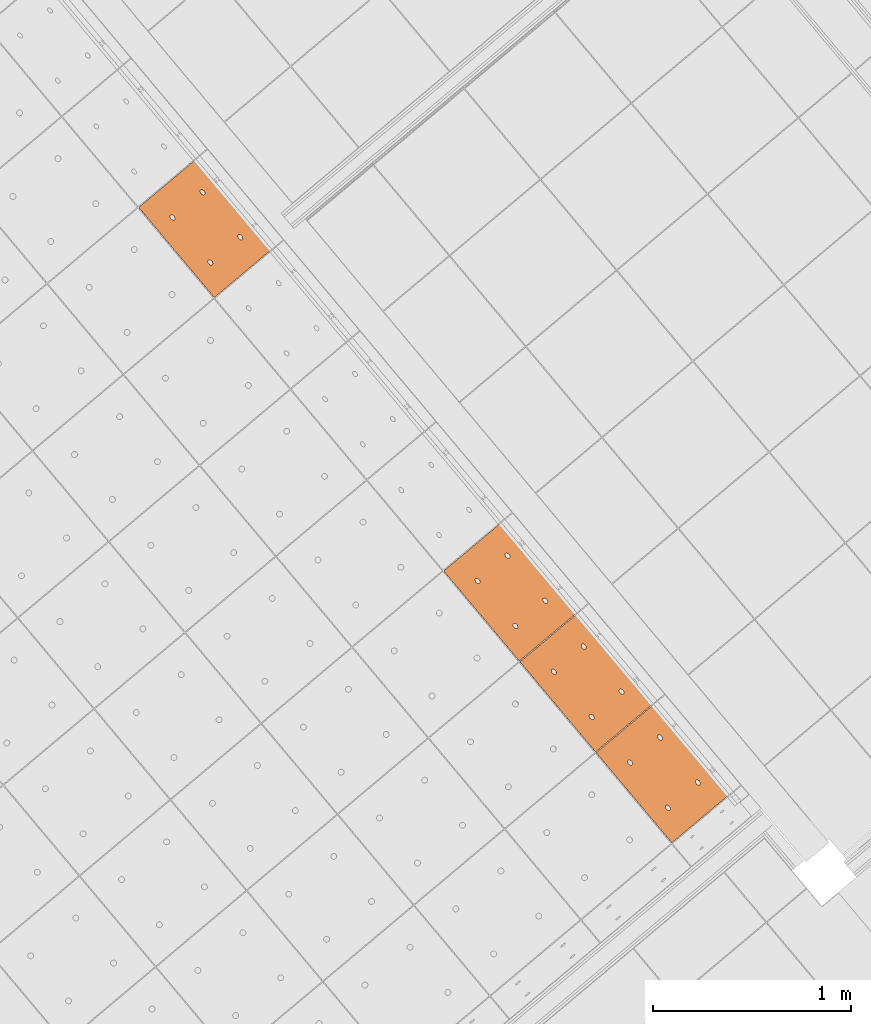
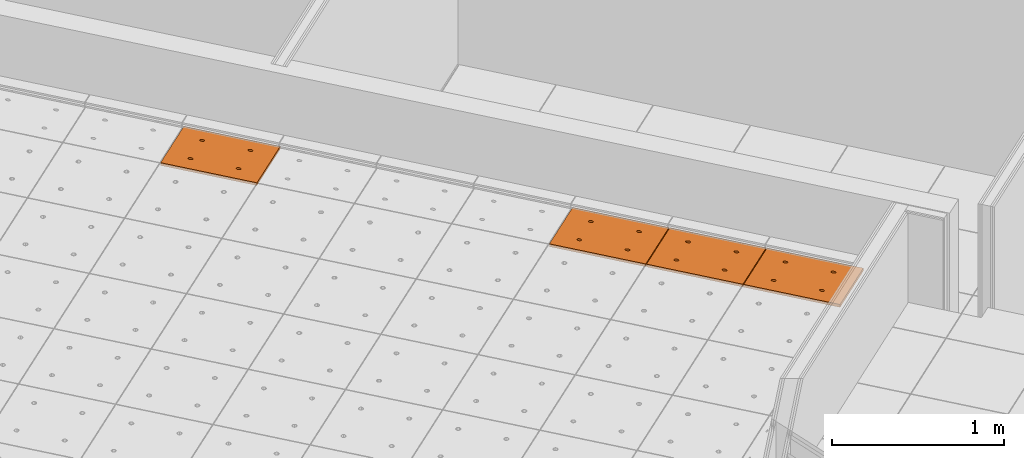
# One storey, part 202 of 338: 4 proxies, 1 element without a shape of its own.
"""IFC2X3 building model written with IfcOpenShell, lengths in millimetres."""

from ifc_helpers import new_model, entity, si_unit, converted_unit, derived_unit, money_unit, direction, frame, origin_with_axes, place, context, subcontext, project, spatial, faceted_brep, source, transform, mapped, material, type_object, type_shapes, element, aggregate, save


model = new_model("IFC2X3")

# Units and contexts
model_context = context("Model", 3, precision=0.01, world=origin_with_axes(), true_north=direction((0.0, 1.0)))
plan_context = context("Plan", 3, precision=0.01, world=origin_with_axes(), true_north=direction((0.0, 1.0)))
body_context = subcontext(model_context, "Body", "Model", "MODEL_VIEW")
ifc_project = project(units=[si_unit("LENGTHUNIT", "METRE", prefix="MILLI"), si_unit("AREAUNIT", "SQUARE_METRE"), si_unit("VOLUMEUNIT", "CUBIC_METRE"), converted_unit("PLANEANGLEUNIT", "DEGREE", entity("IfcPlaneAngleMeasure", 0.0174532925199), si_unit("PLANEANGLEUNIT", "RADIAN"), dimensions=[0, 0, 0, 0, 0, 0, 0]), money_unit("EUR"), converted_unit("TIMEUNIT", "Year", entity("IfcTimeMeasure", 31556926.0), si_unit("TIMEUNIT", "SECOND"), dimensions=[0, 0, 1, 0, 0, 0, 0]), si_unit("MASSUNIT", "GRAM", prefix="KILO"), si_unit("THERMODYNAMICTEMPERATUREUNIT", "DEGREE_CELSIUS"), si_unit("LUMINOUSINTENSITYUNIT", "LUMEN"), si_unit("ENERGYUNIT", "JOULE", prefix="MEGA"), derived_unit("THERMALCONDUCTANCEUNIT", [(si_unit("POWERUNIT", "WATT"), 1), (si_unit("LENGTHUNIT", "METRE"), -1), (si_unit("THERMODYNAMICTEMPERATUREUNIT", "KELVIN"), -1)]), derived_unit("SPECIFICHEATCAPACITYUNIT", [(si_unit("ENERGYUNIT", "JOULE"), 1), (si_unit("MASSUNIT", "GRAM", prefix="KILO"), -1), (si_unit("THERMODYNAMICTEMPERATUREUNIT", "KELVIN"), -1)]), derived_unit("MASSDENSITYUNIT", [(si_unit("MASSUNIT", "GRAM", prefix="KILO"), 1), (si_unit("VOLUMEUNIT", "CUBIC_METRE"), -1)])], contexts=[model_context, plan_context])

# Site, building, storey
site_placement = place(None, origin_with_axes())
site = spatial("IfcSite", under=ifc_project, at=site_placement, Name="Fortuinstraat Woensdrecht", CompositionType="ELEMENT")
building_placement = place(site_placement, origin_with_axes())
building = spatial("IfcBuilding", under=site, at=building_placement, Name="IKC Fortuna", CompositionType="ELEMENT")
storey_placement = place(building_placement, origin_with_axes())
storey = spatial("IfcBuildingStorey", under=building, at=storey_placement, Name="00 begane grond", CompositionType="ELEMENT", Elevation=0.0)

# Covering, proxies
covering_type = type_object("IfcCoveringType", Name="Curtain Wall Type", PredefinedType="CEILING")
covering_placement = place(storey_placement, frame((15863.124366, 4456.31398675, 4619.99995334), z_axis=(0.0, 0.0, 1.0), x_axis=(1.0, 0.0, 0.0)))
covering = element("IfcCovering", 1, at=covering_placement, inside=storey, type_object=covering_type, Name="45_Plafondafwerking_P01", PredefinedType="CEILING")
ifc_material = material(Name="Gipsplaat")
building_element_proxy_type = type_object("IfcBuildingElementProxyType", Name="Main Panel 401 x 600 x 20", PredefinedType="NOTDEFINED")
shared_shape = source(origin_with_axes(), body_context, "Body", "Brep", [
    faceted_brep([(2.49999200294, 2.49999800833, -10.0), (200.390796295, 2.49999800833, -10.0), (200.390796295, 2.49999800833, 10.0), (2.49999200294, 2.49999800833, 10.0), (2.49999200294, 299.999999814, -10.0), (2.49999200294, 597.50000162, -10.0), (200.390796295, 597.50000162, -10.0), (398.281600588, 597.50000162, -10.0), (398.281600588, 299.999999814, -10.0), (398.281600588, 2.49999800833, -10.0), (111.423081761, 450.062330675, -10.0), (111.119914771, 452.647116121, -10.0), (110.522792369, 455.113489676, -10.0), (109.649857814, 457.38651185, -10.0), (108.527634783, 459.397117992, -10.0), (107.190221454, 461.084216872, -10.0), (105.678254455, 462.39654683, -10.0), (104.037674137, 463.294233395, -10.0), (102.318328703, 463.750000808, -10.0), (100.572459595, 463.750000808, -10.0), (98.8531141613, 463.294233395, -10.0), (97.212533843, 462.39654683, -10.0), (95.7005668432, 461.084216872, -10.0), (94.3631535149, 459.397117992, -10.0), (93.240930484, 457.38651185, -10.0), (92.3679959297, 455.113489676, -10.0), (91.7708735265, 452.647116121, -10.0), (91.4677065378, 450.062330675, -10.0), (91.4677065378, 448.750000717, -10.0), (91.4677065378, 447.437670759, -10.0), (91.7708735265, 444.852885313, -10.0), (92.3679959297, 442.386511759, -10.0), (93.240930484, 440.113489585, -10.0), (94.3631535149, 438.102883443, -10.0), (95.7005668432, 436.415784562, -10.0), (97.212533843, 435.103454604, -10.0), (98.8531141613, 434.205768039, -10.0), (100.572459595, 433.750000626, -10.0), (102.318328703, 433.750000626, -10.0), (104.037674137, 434.205768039, -10.0), (105.678254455, 435.103454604, -10.0), (107.190221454, 436.415784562, -10.0), (108.527634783, 438.102883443, -10.0), (109.649857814, 440.113489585, -10.0), (110.522792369, 442.386511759, -10.0), (111.119914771, 444.852885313, -10.0), (111.423081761, 447.437670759, -10.0), (309.313886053, 450.062330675, -10.0), (309.010719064, 452.647116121, -10.0), (308.413596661, 455.113489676, -10.0), (307.540662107, 457.38651185, -10.0), (306.418439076, 459.397117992, -10.0), (305.081025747, 461.084216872, -10.0), (303.569058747, 462.39654683, -10.0), (301.928478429, 463.294233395, -10.0), (300.209132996, 463.750000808, -10.0), (298.463263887, 463.750000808, -10.0), (296.743918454, 463.294233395, -10.0), (295.103338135, 462.39654683, -10.0), (293.591371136, 461.084216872, -10.0), (292.253957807, 459.397117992, -10.0), (291.131734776, 457.38651185, -10.0), (290.258800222, 455.113489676, -10.0), (289.661677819, 452.647116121, -10.0), (289.35851083, 450.062330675, -10.0), (289.35851083, 448.750000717, -10.0), (289.35851083, 447.437670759, -10.0), (289.661677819, 444.852885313, -10.0), (290.258800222, 442.386511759, -10.0), (291.131734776, 440.113489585, -10.0), (292.253957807, 438.102883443, -10.0), (293.591371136, 436.415784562, -10.0), (295.103338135, 435.103454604, -10.0), (296.743918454, 434.205768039, -10.0), (298.463263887, 433.750000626, -10.0), (300.209132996, 433.750000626, -10.0), (301.928478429, 434.205768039, -10.0), (303.569058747, 435.103454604, -10.0), (305.081025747, 436.415784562, -10.0), (306.418439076, 438.102883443, -10.0), (307.540662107, 440.113489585, -10.0), (308.413596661, 442.386511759, -10.0), (309.010719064, 444.852885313, -10.0), (309.313886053, 447.437670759, -10.0), (309.313886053, 152.562328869, -10.0), (309.010719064, 155.147114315, -10.0), (308.413596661, 157.61348787, -10.0), (307.540662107, 159.886510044, -10.0), (306.418439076, 161.897116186, -10.0), (305.081025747, 163.584215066, -10.0), (303.569058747, 164.896545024, -10.0), (301.928478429, 165.79423159, -10.0), (300.209132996, 166.249999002, -10.0), (298.463263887, 166.249999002, -10.0), (296.743918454, 165.79423159, -10.0), (295.103338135, 164.896545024, -10.0), (293.591371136, 163.584215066, -10.0), (292.253957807, 161.897116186, -10.0), (291.131734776, 159.886510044, -10.0), (290.258800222, 157.61348787, -10.0), (289.661677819, 155.147114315, -10.0), (289.35851083, 152.562328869, -10.0), (289.35851083, 151.249998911, -10.0), (289.35851083, 149.937668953, -10.0), (289.661677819, 147.352883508, -10.0), (290.258800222, 144.886509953, -10.0), (291.131734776, 142.613487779, -10.0), (292.253957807, 140.602881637, -10.0), (293.591371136, 138.915782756, -10.0), (295.103338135, 137.603452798, -10.0), (296.743918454, 136.705766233, -10.0), (298.463263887, 136.24999882, -10.0), (300.209132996, 136.24999882, -10.0), (301.928478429, 136.705766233, -10.0), (303.569058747, 137.603452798, -10.0), (305.081025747, 138.915782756, -10.0), (306.418439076, 140.602881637, -10.0), (307.540662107, 142.613487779, -10.0), (308.413596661, 144.886509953, -10.0), (309.010719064, 147.352883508, -10.0), (309.313886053, 149.937668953, -10.0), (111.423081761, 152.562328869, -10.0), (111.119914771, 155.147114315, -10.0), (110.522792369, 157.61348787, -10.0), (109.649857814, 159.886510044, -10.0), (108.527634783, 161.897116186, -10.0), (107.190221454, 163.584215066, -10.0), (105.678254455, 164.896545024, -10.0), (104.037674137, 165.79423159, -10.0), (102.318328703, 166.249999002, -10.0), (100.572459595, 166.249999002, -10.0), (98.8531141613, 165.79423159, -10.0), (97.212533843, 164.896545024, -10.0), (95.7005668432, 163.584215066, -10.0), (94.3631535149, 161.897116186, -10.0), (93.240930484, 159.886510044, -10.0), (92.3679959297, 157.61348787, -10.0), (91.7708735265, 155.147114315, -10.0), (91.4677065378, 152.562328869, -10.0), (91.4677065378, 151.249998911, -10.0), (91.4677065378, 149.937668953, -10.0), (91.7708735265, 147.352883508, -10.0), (92.3679959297, 144.886509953, -10.0), (93.240930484, 142.613487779, -10.0), (94.3631535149, 140.602881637, -10.0), (95.7005668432, 138.915782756, -10.0), (97.212533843, 137.603452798, -10.0), (98.8531141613, 136.705766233, -10.0), (100.572459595, 136.24999882, -10.0), (102.318328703, 136.24999882, -10.0), (104.037674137, 136.705766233, -10.0), (105.678254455, 137.603452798, -10.0), (107.190221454, 138.915782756, -10.0), (108.527634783, 140.602881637, -10.0), (109.649857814, 142.613487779, -10.0), (110.522792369, 144.886509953, -10.0), (111.119914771, 147.352883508, -10.0), (111.423081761, 149.937668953, -10.0), (398.281600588, 2.49999800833, 10.0), (398.281600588, 299.999999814, 10.0), (398.281600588, 597.50000162, 10.0), (200.390796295, 597.50000162, 10.0), (2.49999200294, 597.50000162, 10.0), (2.49999200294, 299.999999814, 10.0), (111.423081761, 450.062330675, 10.0), (111.423081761, 447.437670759, 10.0), (111.119914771, 444.852885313, 10.0), (110.522792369, 442.386511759, 10.0), (109.649857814, 440.113489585, 10.0), (108.527634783, 438.102883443, 10.0), (107.190221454, 436.415784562, 10.0), (105.678254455, 435.103454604, 10.0), (104.037674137, 434.205768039, 10.0), (102.318328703, 433.750000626, 10.0), (100.572459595, 433.750000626, 10.0), (98.8531141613, 434.205768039, 10.0), (97.212533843, 435.103454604, 10.0), (95.7005668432, 436.415784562, 10.0), (94.3631535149, 438.102883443, 10.0), (93.240930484, 440.113489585, 10.0), (92.3679959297, 442.386511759, 10.0), (91.7708735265, 444.852885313, 10.0), (91.4677065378, 447.437670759, 10.0), (91.4677065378, 448.750000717, 10.0), (91.4677065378, 450.062330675, 10.0), (91.7708735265, 452.647116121, 10.0), (92.3679959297, 455.113489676, 10.0), (93.240930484, 457.38651185, 10.0), (94.3631535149, 459.397117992, 10.0), (95.7005668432, 461.084216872, 10.0), (97.212533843, 462.39654683, 10.0), (98.8531141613, 463.294233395, 10.0), (100.572459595, 463.750000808, 10.0), (102.318328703, 463.750000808, 10.0), (104.037674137, 463.294233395, 10.0), (105.678254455, 462.39654683, 10.0), (107.190221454, 461.084216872, 10.0), (108.527634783, 459.397117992, 10.0), (109.649857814, 457.38651185, 10.0), (110.522792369, 455.113489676, 10.0), (111.119914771, 452.647116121, 10.0), (309.313886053, 450.062330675, 10.0), (309.313886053, 447.437670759, 10.0), (309.010719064, 444.852885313, 10.0), (308.413596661, 442.386511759, 10.0), (307.540662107, 440.113489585, 10.0), (306.418439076, 438.102883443, 10.0), (305.081025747, 436.415784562, 10.0), (303.569058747, 435.103454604, 10.0), (301.928478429, 434.205768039, 10.0), (300.209132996, 433.750000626, 10.0), (298.463263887, 433.750000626, 10.0), (296.743918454, 434.205768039, 10.0), (295.103338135, 435.103454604, 10.0), (293.591371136, 436.415784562, 10.0), (292.253957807, 438.102883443, 10.0), (291.131734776, 440.113489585, 10.0), (290.258800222, 442.386511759, 10.0), (289.661677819, 444.852885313, 10.0), (289.35851083, 447.437670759, 10.0), (289.35851083, 448.750000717, 10.0), (289.35851083, 450.062330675, 10.0), (289.661677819, 452.647116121, 10.0), (290.258800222, 455.113489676, 10.0), (291.131734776, 457.38651185, 10.0), (292.253957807, 459.397117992, 10.0), (293.591371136, 461.084216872, 10.0), (295.103338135, 462.39654683, 10.0), (296.743918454, 463.294233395, 10.0), (298.463263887, 463.750000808, 10.0), (300.209132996, 463.750000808, 10.0), (301.928478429, 463.294233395, 10.0), (303.569058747, 462.39654683, 10.0), (305.081025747, 461.084216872, 10.0), (306.418439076, 459.397117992, 10.0), (307.540662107, 457.38651185, 10.0), (308.413596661, 455.113489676, 10.0), (309.010719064, 452.647116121, 10.0), (309.313886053, 152.562328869, 10.0), (309.313886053, 149.937668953, 10.0), (309.010719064, 147.352883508, 10.0), (308.413596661, 144.886509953, 10.0), (307.540662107, 142.613487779, 10.0), (306.418439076, 140.602881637, 10.0), (305.081025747, 138.915782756, 10.0), (303.569058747, 137.603452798, 10.0), (301.928478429, 136.705766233, 10.0), (300.209132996, 136.24999882, 10.0), (298.463263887, 136.24999882, 10.0), (296.743918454, 136.705766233, 10.0), (295.103338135, 137.603452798, 10.0), (293.591371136, 138.915782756, 10.0), (292.253957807, 140.602881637, 10.0), (291.131734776, 142.613487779, 10.0), (290.258800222, 144.886509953, 10.0), (289.661677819, 147.352883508, 10.0), (289.35851083, 149.937668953, 10.0), (289.35851083, 151.249998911, 10.0), (289.35851083, 152.562328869, 10.0), (289.661677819, 155.147114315, 10.0), (290.258800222, 157.61348787, 10.0), (291.131734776, 159.886510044, 10.0), (292.253957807, 161.897116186, 10.0), (293.591371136, 163.584215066, 10.0), (295.103338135, 164.896545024, 10.0), (296.743918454, 165.79423159, 10.0), (298.463263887, 166.249999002, 10.0), (300.209132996, 166.249999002, 10.0), (301.928478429, 165.79423159, 10.0), (303.569058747, 164.896545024, 10.0), (305.081025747, 163.584215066, 10.0), (306.418439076, 161.897116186, 10.0), (307.540662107, 159.886510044, 10.0), (308.413596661, 157.61348787, 10.0), (309.010719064, 155.147114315, 10.0), (111.423081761, 152.562328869, 10.0), (111.423081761, 149.937668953, 10.0), (111.119914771, 147.352883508, 10.0), (110.522792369, 144.886509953, 10.0), (109.649857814, 142.613487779, 10.0), (108.527634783, 140.602881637, 10.0), (107.190221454, 138.915782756, 10.0), (105.678254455, 137.603452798, 10.0), (104.037674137, 136.705766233, 10.0), (102.318328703, 136.24999882, 10.0), (100.572459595, 136.24999882, 10.0), (98.8531141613, 136.705766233, 10.0), (97.212533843, 137.603452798, 10.0), (95.7005668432, 138.915782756, 10.0), (94.3631535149, 140.602881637, 10.0), (93.240930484, 142.613487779, 10.0), (92.3679959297, 144.886509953, 10.0), (91.7708735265, 147.352883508, 10.0), (91.4677065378, 149.937668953, 10.0), (91.4677065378, 151.249998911, 10.0), (91.4677065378, 152.562328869, 10.0), (91.7708735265, 155.147114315, 10.0), (92.3679959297, 157.61348787, 10.0), (93.240930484, 159.886510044, 10.0), (94.3631535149, 161.897116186, 10.0), (95.7005668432, 163.584215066, 10.0), (97.212533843, 164.896545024, 10.0), (98.8531141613, 165.79423159, 10.0), (100.572459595, 166.249999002, 10.0), (102.318328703, 166.249999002, 10.0), (104.037674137, 165.79423159, 10.0), (105.678254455, 164.896545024, 10.0), (107.190221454, 163.584215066, 10.0), (108.527634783, 161.897116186, 10.0), (109.649857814, 159.886510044, 10.0), (110.522792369, 157.61348787, 10.0), (111.119914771, 155.147114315, 10.0)], [[[0, 1, 2, 3]], [[0, 4, 5, 6, 7, 8, 9, 1], [10, 11, 12, 13, 14, 15, 16, 17, 18, 19, 20, 21, 22, 23, 24, 25, 26, 27, 28, 29, 30, 31, 32, 33, 34, 35, 36, 37, 38, 39, 40, 41, 42, 43, 44, 45, 46], [47, 48, 49, 50, 51, 52, 53, 54, 55, 56, 57, 58, 59, 60, 61, 62, 63, 64, 65, 66, 67, 68, 69, 70, 71, 72, 73, 74, 75, 76, 77, 78, 79, 80, 81, 82, 83], [84, 85, 86, 87, 88, 89, 90, 91, 92, 93, 94, 95, 96, 97, 98, 99, 100, 101, 102, 103, 104, 105, 106, 107, 108, 109, 110, 111, 112, 113, 114, 115, 116, 117, 118, 119, 120], [121, 122, 123, 124, 125, 126, 127, 128, 129, 130, 131, 132, 133, 134, 135, 136, 137, 138, 139, 140, 141, 142, 143, 144, 145, 146, 147, 148, 149, 150, 151, 152, 153, 154, 155, 156, 157]], [[1, 9, 158, 2]], [[3, 2, 158, 159, 160, 161, 162, 163], [164, 165, 166, 167, 168, 169, 170, 171, 172, 173, 174, 175, 176, 177, 178, 179, 180, 181, 182, 183, 184, 185, 186, 187, 188, 189, 190, 191, 192, 193, 194, 195, 196, 197, 198, 199, 200], [201, 202, 203, 204, 205, 206, 207, 208, 209, 210, 211, 212, 213, 214, 215, 216, 217, 218, 219, 220, 221, 222, 223, 224, 225, 226, 227, 228, 229, 230, 231, 232, 233, 234, 235, 236, 237], [238, 239, 240, 241, 242, 243, 244, 245, 246, 247, 248, 249, 250, 251, 252, 253, 254, 255, 256, 257, 258, 259, 260, 261, 262, 263, 264, 265, 266, 267, 268, 269, 270, 271, 272, 273, 274], [275, 276, 277, 278, 279, 280, 281, 282, 283, 284, 285, 286, 287, 288, 289, 290, 291, 292, 293, 294, 295, 296, 297, 298, 299, 300, 301, 302, 303, 304, 305, 306, 307, 308, 309, 310, 311]], [[4, 0, 3, 163]], [[5, 4, 163, 162]], [[6, 5, 162, 161]], [[7, 6, 161, 160]], [[8, 7, 160, 159]], [[9, 8, 159, 158]], [[11, 10, 164, 200]], [[12, 11, 200, 199]], [[13, 12, 199, 198]], [[14, 13, 198, 197]], [[15, 14, 197, 196]], [[16, 15, 196, 195]], [[17, 16, 195, 194]], [[18, 17, 194, 193]], [[19, 18, 193, 192]], [[20, 19, 192, 191]], [[21, 20, 191, 190]], [[22, 21, 190, 189]], [[23, 22, 189, 188]], [[24, 23, 188, 187]], [[25, 24, 187, 186]], [[26, 25, 186, 185]], [[27, 26, 185, 184]], [[28, 27, 184, 183]], [[29, 28, 183, 182]], [[30, 29, 182, 181]], [[31, 30, 181, 180]], [[32, 31, 180, 179]], [[33, 32, 179, 178]], [[34, 33, 178, 177]], [[35, 34, 177, 176]], [[36, 35, 176, 175]], [[37, 36, 175, 174]], [[38, 37, 174, 173]], [[39, 38, 173, 172]], [[40, 39, 172, 171]], [[41, 40, 171, 170]], [[42, 41, 170, 169]], [[43, 42, 169, 168]], [[44, 43, 168, 167]], [[45, 44, 167, 166]], [[46, 45, 166, 165]], [[10, 46, 165, 164]], [[48, 47, 201, 237]], [[49, 48, 237, 236]], [[50, 49, 236, 235]], [[51, 50, 235, 234]], [[52, 51, 234, 233]], [[53, 52, 233, 232]], [[54, 53, 232, 231]], [[55, 54, 231, 230]], [[56, 55, 230, 229]], [[57, 56, 229, 228]], [[58, 57, 228, 227]], [[59, 58, 227, 226]], [[60, 59, 226, 225]], [[61, 60, 225, 224]], [[62, 61, 224, 223]], [[63, 62, 223, 222]], [[64, 63, 222, 221]], [[65, 64, 221, 220]], [[66, 65, 220, 219]], [[67, 66, 219, 218]], [[68, 67, 218, 217]], [[69, 68, 217, 216]], [[70, 69, 216, 215]], [[71, 70, 215, 214]], [[72, 71, 214, 213]], [[73, 72, 213, 212]], [[74, 73, 212, 211]], [[75, 74, 211, 210]], [[76, 75, 210, 209]], [[77, 76, 209, 208]], [[78, 77, 208, 207]], [[79, 78, 207, 206]], [[80, 79, 206, 205]], [[81, 80, 205, 204]], [[82, 81, 204, 203]], [[83, 82, 203, 202]], [[47, 83, 202, 201]], [[85, 84, 238, 274]], [[86, 85, 274, 273]], [[87, 86, 273, 272]], [[88, 87, 272, 271]], [[89, 88, 271, 270]], [[90, 89, 270, 269]], [[91, 90, 269, 268]], [[92, 91, 268, 267]], [[93, 92, 267, 266]], [[94, 93, 266, 265]], [[95, 94, 265, 264]], [[96, 95, 264, 263]], [[97, 96, 263, 262]], [[98, 97, 262, 261]], [[99, 98, 261, 260]], [[100, 99, 260, 259]], [[101, 100, 259, 258]], [[102, 101, 258, 257]], [[103, 102, 257, 256]], [[104, 103, 256, 255]], [[105, 104, 255, 254]], [[106, 105, 254, 253]], [[107, 106, 253, 252]], [[108, 107, 252, 251]], [[109, 108, 251, 250]], [[110, 109, 250, 249]], [[111, 110, 249, 248]], [[112, 111, 248, 247]], [[113, 112, 247, 246]], [[114, 113, 246, 245]], [[115, 114, 245, 244]], [[116, 115, 244, 243]], [[117, 116, 243, 242]], [[118, 117, 242, 241]], [[119, 118, 241, 240]], [[120, 119, 240, 239]], [[84, 120, 239, 238]], [[122, 121, 275, 311]], [[123, 122, 311, 310]], [[124, 123, 310, 309]], [[125, 124, 309, 308]], [[126, 125, 308, 307]], [[127, 126, 307, 306]], [[128, 127, 306, 305]], [[129, 128, 305, 304]], [[130, 129, 304, 303]], [[131, 130, 303, 302]], [[132, 131, 302, 301]], [[133, 132, 301, 300]], [[134, 133, 300, 299]], [[135, 134, 299, 298]], [[136, 135, 298, 297]], [[137, 136, 297, 296]], [[138, 137, 296, 295]], [[139, 138, 295, 294]], [[140, 139, 294, 293]], [[141, 140, 293, 292]], [[142, 141, 292, 291]], [[143, 142, 291, 290]], [[144, 143, 290, 289]], [[145, 144, 289, 288]], [[146, 145, 288, 287]], [[147, 146, 287, 286]], [[148, 147, 286, 285]], [[149, 148, 285, 284]], [[150, 149, 284, 283]], [[151, 150, 283, 282]], [[152, 151, 282, 281]], [[153, 152, 281, 280]], [[154, 153, 280, 279]], [[155, 154, 279, 278]], [[156, 155, 278, 277]], [[157, 156, 277, 276]], [[121, 157, 276, 275]]]),
])
type_shapes(building_element_proxy_type, [shared_shape])
proxy_1_placement = place(covering_placement, frame((-2692.6870544, 2872.50874909, 1.08315923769), z_axis=(0.0, 0.0, 1.0), x_axis=(0.642787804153, -0.766044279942, 0.0)))
proxy_1 = element("IfcBuildingElementProxy", 2, at=proxy_1_placement, type_object=building_element_proxy_type, material=ifc_material, Name="__600x983 Rockfon Krios", context=body_context, shape_type="MappedRepresentation", body=[
    mapped(shared_shape, transform((-300.0, 200.387875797, -1.08311258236), x_axis=(0.0, -0.999985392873, 0.00540500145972), y_axis=(1.0, 0.0, 0.0), z_axis=(0.0, 0.00540500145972, 0.999985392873))),
])
proxy_2_placement = place(covering_placement, frame((-1149.99632443, 1034.00247723, 1.08315923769), z_axis=(0.0, 0.0, 1.0), x_axis=(0.642787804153, -0.766044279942, 0.0)))
proxy_2 = element("IfcBuildingElementProxy", 3, at=proxy_2_placement, type_object=building_element_proxy_type, material=ifc_material, Name="__600x035 Rockfon Krios", context=body_context, shape_type="MappedRepresentation", body=[
    mapped(shared_shape, transform((-300.0, 200.387875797, -1.08311258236), x_axis=(0.0, -0.999985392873, 0.00540500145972), y_axis=(1.0, 0.0, 0.0), z_axis=(0.0, 0.00540500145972, 0.999985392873))),
])
proxy_3_placement = place(covering_placement, frame((-764.323641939, 574.375909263, 1.08315923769), z_axis=(0.0, 0.0, 1.0), x_axis=(0.642787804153, -0.766044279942, 0.0)))
proxy_3 = element("IfcBuildingElementProxy", 4, at=proxy_3_placement, type_object=building_element_proxy_type, material=ifc_material, Name="__600x048 Rockfon Krios", context=body_context, shape_type="MappedRepresentation", body=[
    mapped(shared_shape, transform((-300.0, 200.387875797, -1.08311258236), x_axis=(0.0, -0.999985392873, 0.00540500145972), y_axis=(1.0, 0.0, 0.0), z_axis=(0.0, 0.00540500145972, 0.999985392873))),
])
proxy_4_placement = place(covering_placement, frame((-378.650959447, 114.749341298, 1.08315923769), z_axis=(0.0, 0.0, 1.0), x_axis=(0.642787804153, -0.766044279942, 0.0)))
proxy_4 = element("IfcBuildingElementProxy", 5, at=proxy_4_placement, type_object=building_element_proxy_type, material=ifc_material, Name="__600x061 Rockfon Krios", context=body_context, shape_type="MappedRepresentation", body=[
    mapped(shared_shape, transform((-300.0, 200.387875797, -1.08311258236), x_axis=(0.0, -0.999985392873, 0.00540500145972), y_axis=(1.0, 0.0, 0.0), z_axis=(0.0, 0.00540500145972, 0.999985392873))),
])
aggregate(covering, [proxy_1, proxy_2, proxy_3, proxy_4])

save(model, "model.ifc")
